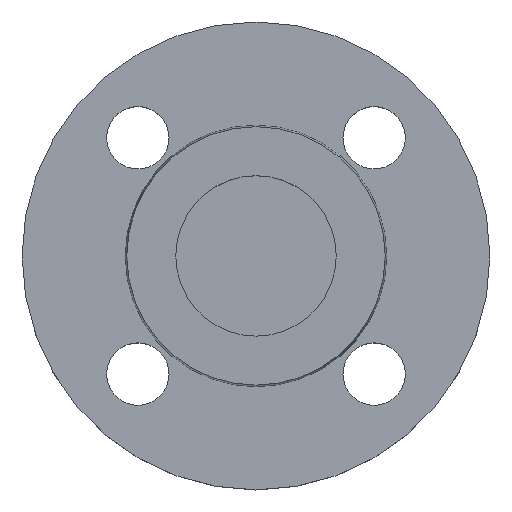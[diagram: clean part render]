
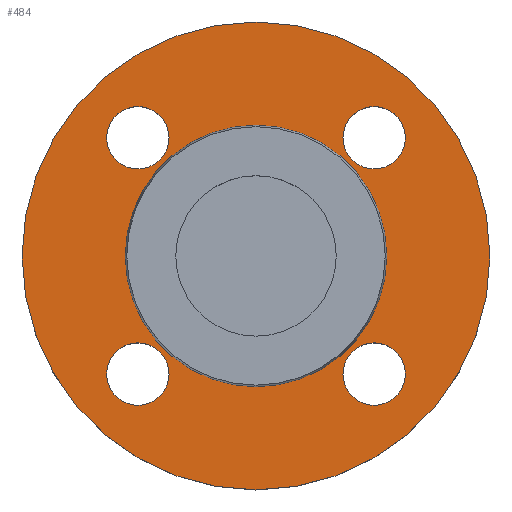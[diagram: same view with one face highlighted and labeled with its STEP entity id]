
A CAD part, top view. The second image highlights one B-rep face of the part: STEP entity #484.
In plain terms, the highlighted planar face has unit normal (0, 0, 1).
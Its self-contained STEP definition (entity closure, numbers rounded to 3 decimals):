
#7 = CARTESIAN_POINT ( 'NONE',  ( -52.5, 0., -2. ) ) ;
#8 = CARTESIAN_POINT ( 'NONE',  ( -33.517, 26.517, -2. ) ) ;
#35 = CARTESIAN_POINT ( 'NONE',  ( 26.517, -26.517, -2. ) ) ;
#36 = DIRECTION ( 'NONE',  ( 0., 0., -1. ) ) ;
#37 = DIRECTION ( 'NONE',  ( 1., 0., 0. ) ) ;
#38 = CIRCLE ( 'NONE', #304, 7. ) ;
#56 = EDGE_CURVE ( 'NONE', #411, #446, #249, .T. ) ;
#61 = CARTESIAN_POINT ( 'NONE',  ( 0., 0., -2. ) ) ;
#65 = DIRECTION ( 'NONE',  ( 0., 0., -1. ) ) ;
#90 = DIRECTION ( 'NONE',  ( -1., 0., 0. ) ) ;
#91 = CARTESIAN_POINT ( 'NONE',  ( -26.517, -26.517, -2. ) ) ;
#93 = DIRECTION ( 'NONE',  ( 0., 0., -1. ) ) ;
#94 = DIRECTION ( 'NONE',  ( 1., 0., 0. ) ) ;
#121 = CARTESIAN_POINT ( 'NONE',  ( -33.517, -26.517, -2. ) ) ;
#126 = CIRCLE ( 'NONE', #466, 29.353 ) ;
#128 = CARTESIAN_POINT ( 'NONE',  ( -19.517, -26.517, -2. ) ) ;
#134 = CARTESIAN_POINT ( 'NONE',  ( -26.517, 26.517, -2. ) ) ;
#139 = AXIS2_PLACEMENT_3D ( 'NONE', #35, #36, #37 ) ;
#140 = DIRECTION ( 'NONE',  ( 0., 0., -1. ) ) ;
#142 = DIRECTION ( 'NONE',  ( 1., 0., 0. ) ) ;
#149 = CARTESIAN_POINT ( 'NONE',  ( 26.517, 26.517, -2. ) ) ;
#150 = DIRECTION ( 'NONE',  ( 0., 0., -1. ) ) ;
#151 = DIRECTION ( 'NONE',  ( 1., 0., 0. ) ) ;
#152 = CARTESIAN_POINT ( 'NONE',  ( -19.517, 26.517, -2. ) ) ;
#155 = CARTESIAN_POINT ( 'NONE',  ( 0., 0., -2. ) ) ;
#156 = DIRECTION ( 'NONE',  ( 0., 0., -1. ) ) ;
#158 = DIRECTION ( 'NONE',  ( -1., 0., 0. ) ) ;
#164 = CARTESIAN_POINT ( 'NONE',  ( 0., 0., -2. ) ) ;
#166 = DIRECTION ( 'NONE',  ( 0., 0., -1. ) ) ;
#167 = DIRECTION ( 'NONE',  ( -1., 0., 0. ) ) ;
#184 = CARTESIAN_POINT ( 'NONE',  ( 29.353, 0., -2. ) ) ;
#214 = CARTESIAN_POINT ( 'NONE',  ( 19.517, -26.517, -2. ) ) ;
#215 = CARTESIAN_POINT ( 'NONE',  ( 33.517, 26.517, -2. ) ) ;
#222 = CARTESIAN_POINT ( 'NONE',  ( 33.517, -26.517, -2. ) ) ;
#229 = CIRCLE ( 'NONE', #596, 7. ) ;
#230 = AXIS2_PLACEMENT_3D ( 'NONE', #155, #156, #158 ) ;
#232 = CIRCLE ( 'NONE', #230, 52.5 ) ;
#242 = AXIS2_PLACEMENT_3D ( 'NONE', #164, #166, #167 ) ;
#247 = CIRCLE ( 'NONE', #259, 7. ) ;
#249 = CIRCLE ( 'NONE', #445, 7. ) ;
#255 = VERTEX_POINT ( 'NONE', #121 ) ;
#259 = AXIS2_PLACEMENT_3D ( 'NONE', #134, #140, #142 ) ;
#280 = VERTEX_POINT ( 'NONE', #128 ) ;
#301 = CIRCLE ( 'NONE', #242, 29.353 ) ;
#302 = EDGE_LOOP ( 'NONE', ( #316, #317 ) ) ;
#303 = DIRECTION ( 'NONE',  ( 1., 0., 0. ) ) ;
#304 = AXIS2_PLACEMENT_3D ( 'NONE', #544, #545, #547 ) ;
#305 = DIRECTION ( 'NONE',  ( 0., 0., -1. ) ) ;
#306 = CARTESIAN_POINT ( 'NONE',  ( -26.517, -26.517, -2. ) ) ;
#308 = EDGE_CURVE ( 'NONE', #446, #411, #449, .T. ) ;
#311 = CIRCLE ( 'NONE', #367, 7. ) ;
#312 = VERTEX_POINT ( 'NONE', #152 ) ;
#313 = AXIS2_PLACEMENT_3D ( 'NONE', #572, #573, #574 ) ;
#316 = ORIENTED_EDGE ( 'NONE', *, *, #481, .T. ) ;
#317 = ORIENTED_EDGE ( 'NONE', *, *, #512, .T. ) ;
#318 = ORIENTED_EDGE ( 'NONE', *, *, #497, .T. ) ;
#319 = ORIENTED_EDGE ( 'NONE', *, *, #532, .T. ) ;
#320 = ORIENTED_EDGE ( 'NONE', *, *, #579, .T. ) ;
#321 = ORIENTED_EDGE ( 'NONE', *, *, #460, .T. ) ;
#322 = ORIENTED_EDGE ( 'NONE', *, *, #56, .T. ) ;
#323 = CIRCLE ( 'NONE', #139, 7. ) ;
#324 = ORIENTED_EDGE ( 'NONE', *, *, #308, .T. ) ;
#325 = ORIENTED_EDGE ( 'NONE', *, *, #592, .T. ) ;
#326 = ORIENTED_EDGE ( 'NONE', *, *, #520, .T. ) ;
#327 = ORIENTED_EDGE ( 'NONE', *, *, #500, .F. ) ;
#328 = ORIENTED_EDGE ( 'NONE', *, *, #584, .F. ) ;
#367 = AXIS2_PLACEMENT_3D ( 'NONE', #306, #305, #303 ) ;
#383 = VERTEX_POINT ( 'NONE', #7 ) ;
#384 = VERTEX_POINT ( 'NONE', #8 ) ;
#391 = EDGE_LOOP ( 'NONE', ( #322, #324 ) ) ;
#394 = EDGE_LOOP ( 'NONE', ( #320, #321 ) ) ;
#397 = AXIS2_PLACEMENT_3D ( 'NONE', #558, #559, #560 ) ;
#399 = EDGE_LOOP ( 'NONE', ( #318, #319 ) ) ;
#403 = VERTEX_POINT ( 'NONE', #184 ) ;
#409 = VERTEX_POINT ( 'NONE', #222 ) ;
#410 = VERTEX_POINT ( 'NONE', #214 ) ;
#411 = VERTEX_POINT ( 'NONE', #215 ) ;
#419 = EDGE_LOOP ( 'NONE', ( #327, #328 ) ) ;
#420 = EDGE_LOOP ( 'NONE', ( #325, #326 ) ) ;
#434 = VERTEX_POINT ( 'NONE', #517 ) ;
#436 = VERTEX_POINT ( 'NONE', #510 ) ;
#441 = AXIS2_PLACEMENT_3D ( 'NONE', #528, #529, #530 ) ;
#444 = CIRCLE ( 'NONE', #441, 7. ) ;
#445 = AXIS2_PLACEMENT_3D ( 'NONE', #468, #469, #470 ) ;
#446 = VERTEX_POINT ( 'NONE', #524 ) ;
#449 = CIRCLE ( 'NONE', #581, 7. ) ;
#460 = EDGE_CURVE ( 'NONE', #384, #312, #444, .T. ) ;
#466 = AXIS2_PLACEMENT_3D ( 'NONE', #61, #65, #90 ) ;
#468 = CARTESIAN_POINT ( 'NONE',  ( 26.517, 26.517, -2. ) ) ;
#469 = DIRECTION ( 'NONE',  ( 0., 0., -1. ) ) ;
#470 = DIRECTION ( 'NONE',  ( 1., 0., 0. ) ) ;
#481 = EDGE_CURVE ( 'NONE', #409, #410, #38, .T. ) ;
#484 = ADVANCED_FACE ( 'NONE', ( #551, #552, #553, #554, #555, #556 ), #557, .T. ) ;
#497 = EDGE_CURVE ( 'NONE', #280, #255, #311, .T. ) ;
#500 = EDGE_CURVE ( 'NONE', #436, #383, #590, .T. ) ;
#510 = CARTESIAN_POINT ( 'NONE',  ( 52.5, 0., -2. ) ) ;
#512 = EDGE_CURVE ( 'NONE', #410, #409, #323, .T. ) ;
#517 = CARTESIAN_POINT ( 'NONE',  ( -29.353, 0., -2. ) ) ;
#520 = EDGE_CURVE ( 'NONE', #403, #434, #126, .T. ) ;
#524 = CARTESIAN_POINT ( 'NONE',  ( 19.517, 26.517, -2. ) ) ;
#528 = CARTESIAN_POINT ( 'NONE',  ( -26.517, 26.517, -2. ) ) ;
#529 = DIRECTION ( 'NONE',  ( 0., 0., -1. ) ) ;
#530 = DIRECTION ( 'NONE',  ( 1., 0., 0. ) ) ;
#532 = EDGE_CURVE ( 'NONE', #255, #280, #229, .T. ) ;
#544 = CARTESIAN_POINT ( 'NONE',  ( 26.517, -26.517, -2. ) ) ;
#545 = DIRECTION ( 'NONE',  ( 0., 0., -1. ) ) ;
#547 = DIRECTION ( 'NONE',  ( 1., 0., 0. ) ) ;
#551 = FACE_BOUND ( 'NONE', #302, .T. ) ;
#552 = FACE_BOUND ( 'NONE', #399, .T. ) ;
#553 = FACE_BOUND ( 'NONE', #394, .T. ) ;
#554 = FACE_BOUND ( 'NONE', #391, .T. ) ;
#555 = FACE_BOUND ( 'NONE', #420, .T. ) ;
#556 = FACE_OUTER_BOUND ( 'NONE', #419, .T. ) ;
#557 = PLANE ( 'NONE',  #397 ) ;
#558 = CARTESIAN_POINT ( 'NONE',  ( 29.353, 0., -2. ) ) ;
#559 = DIRECTION ( 'NONE',  ( 0., 0., 1. ) ) ;
#560 = DIRECTION ( 'NONE',  ( 1., 0., 0. ) ) ;
#572 = CARTESIAN_POINT ( 'NONE',  ( 0., 0., -2. ) ) ;
#573 = DIRECTION ( 'NONE',  ( 0., 0., -1. ) ) ;
#574 = DIRECTION ( 'NONE',  ( -1., 0., 0. ) ) ;
#579 = EDGE_CURVE ( 'NONE', #312, #384, #247, .T. ) ;
#581 = AXIS2_PLACEMENT_3D ( 'NONE', #149, #150, #151 ) ;
#584 = EDGE_CURVE ( 'NONE', #383, #436, #232, .T. ) ;
#590 = CIRCLE ( 'NONE', #313, 52.5 ) ;
#592 = EDGE_CURVE ( 'NONE', #434, #403, #301, .T. ) ;
#596 = AXIS2_PLACEMENT_3D ( 'NONE', #91, #93, #94 ) ;
